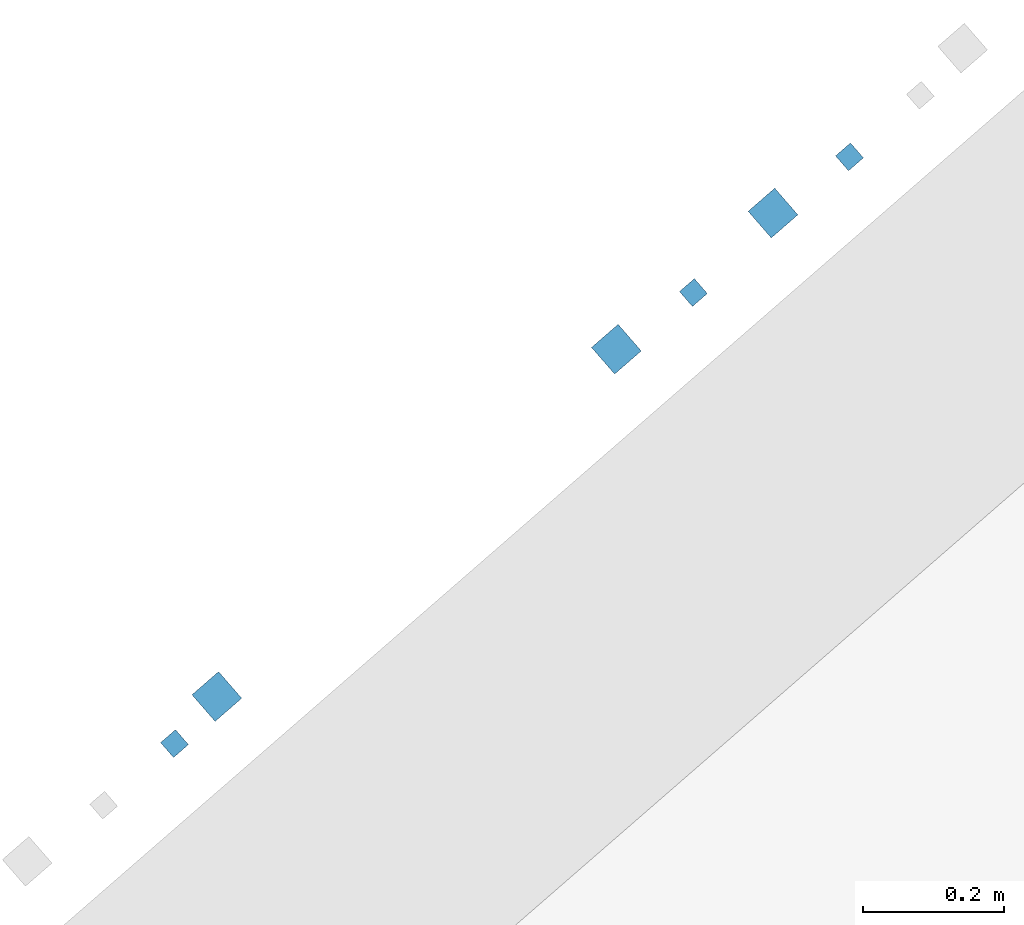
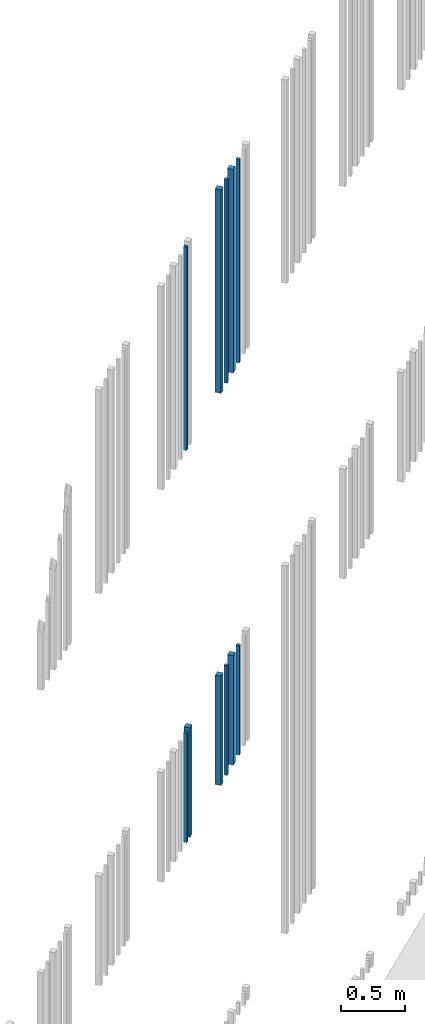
# One storey, part 55 of 124: 11 walls.
"""IFC2X3 building model written with IfcOpenShell, lengths in millimetres."""

from ifc_helpers import new_model, entity, si_unit, converted_unit, derived_unit, money_unit, direction, frame, origin_with_axes, place, context, subcontext, project, spatial, faceted_brep, material, type_object, element, save


model = new_model("IFC2X3")

# Units and contexts
model_context = context("Model", 3, precision=1e-05, world=origin_with_axes(), true_north=direction((0.0, 1.0)))
body_context = subcontext(model_context, "Body", "Model", "MODEL_VIEW")
ifc_project = project(units=[si_unit("LENGTHUNIT", "METRE", prefix="MILLI"), si_unit("AREAUNIT", "SQUARE_METRE"), si_unit("VOLUMEUNIT", "CUBIC_METRE"), converted_unit("PLANEANGLEUNIT", "DEGREE", entity("IfcPlaneAngleMeasure", 0.0174532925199), si_unit("PLANEANGLEUNIT", "RADIAN"), dimensions=[0, 0, 0, 0, 0, 0, 0]), si_unit("SOLIDANGLEUNIT", "STERADIAN"), money_unit("EUR"), converted_unit("TIMEUNIT", "Year", entity("IfcTimeMeasure", 31556926.0), si_unit("TIMEUNIT", "SECOND"), dimensions=[0, 0, 1, 0, 0, 0, 0]), si_unit("MASSUNIT", "GRAM", prefix="KILO"), si_unit("THERMODYNAMICTEMPERATUREUNIT", "DEGREE_CELSIUS"), si_unit("LUMINOUSINTENSITYUNIT", "LUMEN"), si_unit("ENERGYUNIT", "JOULE", prefix="MEGA"), derived_unit("THERMALCONDUCTANCEUNIT", [(si_unit("POWERUNIT", "WATT"), 1), (si_unit("LENGTHUNIT", "METRE"), -1), (si_unit("THERMODYNAMICTEMPERATUREUNIT", "KELVIN"), -1)]), derived_unit("SPECIFICHEATCAPACITYUNIT", [(si_unit("ENERGYUNIT", "JOULE"), 1), (si_unit("MASSUNIT", "GRAM", prefix="KILO"), -1), (si_unit("THERMODYNAMICTEMPERATUREUNIT", "KELVIN"), -1)]), derived_unit("MASSDENSITYUNIT", [(si_unit("MASSUNIT", "GRAM", prefix="KILO"), 1), (si_unit("VOLUMEUNIT", "CUBIC_METRE"), -1)])], contexts=[model_context])

# Site, building, storey
site_placement = place(None, origin_with_axes())
site = spatial("IfcSite", under=ifc_project, at=site_placement, Name="Site", CompositionType="ELEMENT")
building_placement = place(site_placement, origin_with_axes())
building = spatial("IfcBuilding", under=site, at=building_placement, Name="Building", CompositionType="ELEMENT")
storey_placement = place(building_placement, frame((0.0, 0.0, -1615.0), z_axis=(0.0, 0.0, 1.0), x_axis=(1.0, 0.0, 0.0)))
storey = spatial("IfcBuildingStorey", under=building, at=storey_placement, Name="0  korrus", CompositionType="ELEMENT", Elevation=-1615.0)

# Walls
ifc_material = material(Name="Site specified")
wall_type = type_object("IfcWallType", Name="Puitfassaadi ribistik", PredefinedType="NOTDEFINED")
wall_1_placement = place(storey_placement, frame((150409.619666, 100770.928262, 9530.0), z_axis=(0.0, 0.0, 1.0), x_axis=(0.754709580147, 0.656059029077, 0.0)))
element("IfcWall", 1, at=wall_1_placement, inside=storey, type_object=wall_type, material=ifc_material, Name="Site specified", context=body_context, shape_type="Brep", body=[
    faceted_brep([(14.0, 14.0, 1950.0), (14.0, 14.0, 0.0), (-14.0, 14.0, 0.0), (-14.0, 14.0, 1950.0), (14.0, -14.0, 1950.0), (14.0, -14.0, 0.0), (-14.0, -14.0, 0.0), (-14.0, -14.0, 1950.0)], [[[0, 1, 2, 3]], [[4, 5, 1, 0]], [[2, 1, 5, 6]], [[3, 2, 6, 7]], [[4, 0, 3, 7]], [[7, 6, 5, 4]]]),
])
wall_2_placement = place(storey_placement, frame((150409.619666, 100770.928262, 5771.0), z_axis=(0.0, 0.0, 1.0), x_axis=(0.754709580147, 0.656059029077, 0.0)))
element("IfcWall", 2, at=wall_2_placement, inside=storey, type_object=wall_type, material=ifc_material, Name="Site specified", context=body_context, shape_type="Brep", body=[
    faceted_brep([(14.0, 14.0, 1050.0), (14.0, 14.0, 0.0), (-14.0, 14.0, 0.0), (-14.0, 14.0, 1050.0), (14.0, -14.0, 1050.0), (14.0, -14.0, 0.0), (-14.0, -14.0, 0.0), (-14.0, -14.0, 1050.0)], [[[0, 1, 2, 3]], [[4, 5, 1, 0]], [[2, 1, 5, 6]], [[3, 2, 6, 7]], [[4, 0, 3, 7]], [[7, 6, 5, 4]]]),
])
wall_3_placement = place(storey_placement, frame((150469.574562, 100837.621401, 5771.0), z_axis=(0.0, 0.0, 1.0), x_axis=(0.754709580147, 0.656059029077, 0.0)))
element("IfcWall", 3, at=wall_3_placement, inside=storey, type_object=wall_type, material=ifc_material, Name="Site specified", context=body_context, shape_type="Brep", body=[
    faceted_brep([(25.0, 25.0, 1050.0), (25.0, 25.0, 0.0), (-25.0, 25.0, 0.0), (-25.0, 25.0, 1050.0), (25.0, -25.0, 1050.0), (25.0, -25.0, 0.0), (-25.0, -25.0, 0.0), (-25.0, -25.0, 1050.0)], [[[0, 1, 2, 3]], [[4, 5, 1, 0]], [[2, 1, 5, 6]], [[3, 2, 6, 7]], [[4, 0, 3, 7]], [[7, 6, 5, 4]]]),
])
wall_4_placement = place(storey_placement, frame((151257.487356, 101522.543543, 9530.0), z_axis=(0.0, 0.0, 1.0), x_axis=(0.754709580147, 0.656059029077, 0.0)))
element("IfcWall", 4, at=wall_4_placement, inside=storey, type_object=wall_type, material=ifc_material, Name="Site specified", context=body_context, shape_type="Brep", body=[
    faceted_brep([(25.0, 25.0, 1950.0), (25.0, 25.0, 0.0), (-25.0, 25.0, 0.0), (-25.0, 25.0, 1950.0), (25.0, -25.0, 1950.0), (25.0, -25.0, 0.0), (-25.0, -25.0, 0.0), (-25.0, -25.0, 1950.0)], [[[0, 1, 2, 3]], [[4, 5, 1, 0]], [[2, 1, 5, 6]], [[3, 2, 6, 7]], [[4, 0, 3, 7]], [[7, 6, 5, 4]]]),
])
wall_5_placement = place(storey_placement, frame((151144.707063, 101409.929987, 9530.0), z_axis=(0.0, 0.0, 1.0), x_axis=(0.754709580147, 0.656059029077, 0.0)))
element("IfcWall", 5, at=wall_5_placement, inside=storey, type_object=wall_type, material=ifc_material, Name="Site specified", context=body_context, shape_type="Brep", body=[
    faceted_brep([(14.0, 14.0, 1950.0), (14.0, 14.0, 0.0), (-14.0, 14.0, 0.0), (-14.0, 14.0, 1950.0), (14.0, -14.0, 1950.0), (14.0, -14.0, 0.0), (-14.0, -14.0, 0.0), (-14.0, -14.0, 1950.0)], [[[0, 1, 2, 3]], [[4, 5, 1, 0]], [[2, 1, 5, 6]], [[3, 2, 6, 7]], [[4, 0, 3, 7]], [[7, 6, 5, 4]]]),
])
wall_6_placement = place(storey_placement, frame((151035.602741, 101329.66219, 9530.0), z_axis=(0.0, 0.0, 1.0), x_axis=(0.754709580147, 0.656059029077, 0.0)))
element("IfcWall", 6, at=wall_6_placement, inside=storey, type_object=wall_type, material=ifc_material, Name="Site specified", context=body_context, shape_type="Brep", body=[
    faceted_brep([(25.0, 25.0, 1950.0), (25.0, 25.0, 0.0), (-25.0, 25.0, 0.0), (-25.0, 25.0, 1950.0), (25.0, -25.0, 1950.0), (25.0, -25.0, 0.0), (-25.0, -25.0, 0.0), (-25.0, -25.0, 1950.0)], [[[0, 1, 2, 3]], [[4, 5, 1, 0]], [[2, 1, 5, 6]], [[3, 2, 6, 7]], [[4, 0, 3, 7]], [[7, 6, 5, 4]]]),
])
wall_7_placement = place(storey_placement, frame((151257.487356, 101522.543543, 5771.0), z_axis=(0.0, 0.0, 1.0), x_axis=(0.754709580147, 0.656059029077, 0.0)))
element("IfcWall", 7, at=wall_7_placement, inside=storey, type_object=wall_type, material=ifc_material, Name="Site specified", context=body_context, shape_type="Brep", body=[
    faceted_brep([(25.0, 25.0, 1050.0), (25.0, 25.0, 0.0), (-25.0, 25.0, 0.0), (-25.0, 25.0, 1050.0), (25.0, -25.0, 1050.0), (25.0, -25.0, 0.0), (-25.0, -25.0, 0.0), (-25.0, -25.0, 1050.0)], [[[0, 1, 2, 3]], [[4, 5, 1, 0]], [[2, 1, 5, 6]], [[3, 2, 6, 7]], [[4, 0, 3, 7]], [[7, 6, 5, 4]]]),
])
wall_8_placement = place(storey_placement, frame((151365.836948, 101602.155264, 5771.0), z_axis=(0.0, 0.0, 1.0), x_axis=(0.754709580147, 0.656059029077, 0.0)))
element("IfcWall", 8, at=wall_8_placement, inside=storey, type_object=wall_type, material=ifc_material, Name="Site specified", context=body_context, shape_type="Brep", body=[
    faceted_brep([(14.0, 14.0, 1050.0), (14.0, 14.0, 0.0), (-14.0, 14.0, 0.0), (-14.0, 14.0, 1050.0), (14.0, -14.0, 1050.0), (14.0, -14.0, 0.0), (-14.0, -14.0, 0.0), (-14.0, -14.0, 1050.0)], [[[0, 1, 2, 3]], [[4, 5, 1, 0]], [[2, 1, 5, 6]], [[3, 2, 6, 7]], [[4, 0, 3, 7]], [[7, 6, 5, 4]]]),
])
wall_9_placement = place(storey_placement, frame((151365.836948, 101602.155264, 9530.0), z_axis=(0.0, 0.0, 1.0), x_axis=(0.754709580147, 0.656059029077, 0.0)))
element("IfcWall", 9, at=wall_9_placement, inside=storey, type_object=wall_type, material=ifc_material, Name="Site specified", context=body_context, shape_type="Brep", body=[
    faceted_brep([(14.0, 14.0, 1950.0), (14.0, 14.0, 0.0), (-14.0, 14.0, 0.0), (-14.0, 14.0, 1950.0), (14.0, -14.0, 1950.0), (14.0, -14.0, 0.0), (-14.0, -14.0, 0.0), (-14.0, -14.0, 1950.0)], [[[0, 1, 2, 3]], [[4, 5, 1, 0]], [[2, 1, 5, 6]], [[3, 2, 6, 7]], [[4, 0, 3, 7]], [[7, 6, 5, 4]]]),
])
wall_10_placement = place(storey_placement, frame((151035.602741, 101329.66219, 5771.0), z_axis=(0.0, 0.0, 1.0), x_axis=(0.754709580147, 0.656059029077, 0.0)))
element("IfcWall", 10, at=wall_10_placement, inside=storey, type_object=wall_type, material=ifc_material, Name="Site specified", context=body_context, shape_type="Brep", body=[
    faceted_brep([(25.0, 25.0, 1050.0), (25.0, 25.0, 0.0), (-25.0, 25.0, 0.0), (-25.0, 25.0, 1050.0), (25.0, -25.0, 1050.0), (25.0, -25.0, 0.0), (-25.0, -25.0, 0.0), (-25.0, -25.0, 1050.0)], [[[0, 1, 2, 3]], [[4, 5, 1, 0]], [[2, 1, 5, 6]], [[3, 2, 6, 7]], [[4, 0, 3, 7]], [[7, 6, 5, 4]]]),
])
wall_11_placement = place(storey_placement, frame((151144.707063, 101409.929987, 5771.0), z_axis=(0.0, 0.0, 1.0), x_axis=(0.754709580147, 0.656059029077, 0.0)))
element("IfcWall", 11, at=wall_11_placement, inside=storey, type_object=wall_type, material=ifc_material, Name="Site specified", context=body_context, shape_type="Brep", body=[
    faceted_brep([(14.0, 14.0, 1050.0), (14.0, 14.0, 0.0), (-14.0, 14.0, 0.0), (-14.0, 14.0, 1050.0), (14.0, -14.0, 1050.0), (14.0, -14.0, 0.0), (-14.0, -14.0, 0.0), (-14.0, -14.0, 1050.0)], [[[0, 1, 2, 3]], [[4, 5, 1, 0]], [[2, 1, 5, 6]], [[3, 2, 6, 7]], [[4, 0, 3, 7]], [[7, 6, 5, 4]]]),
])

save(model, "model.ifc")
